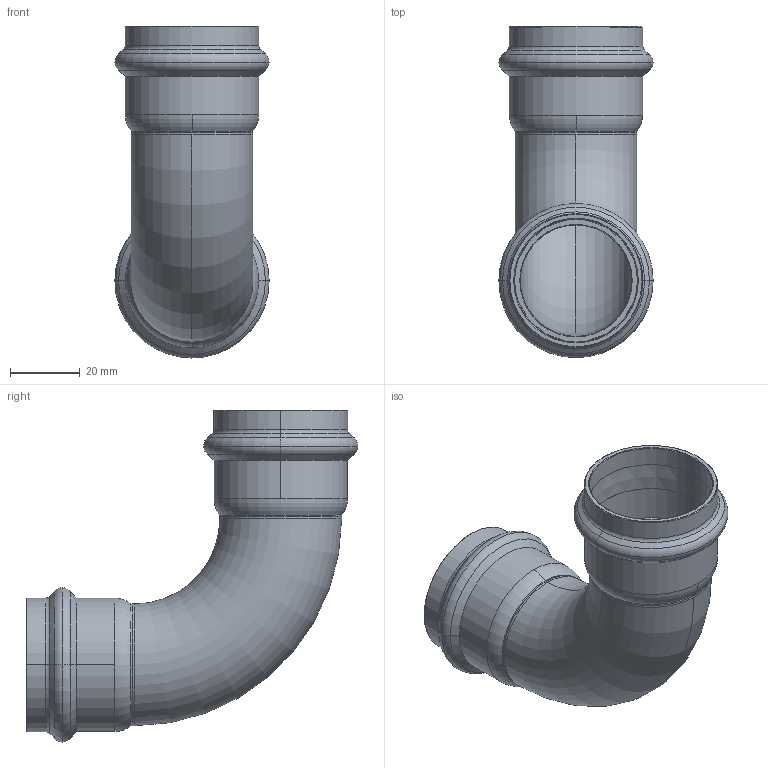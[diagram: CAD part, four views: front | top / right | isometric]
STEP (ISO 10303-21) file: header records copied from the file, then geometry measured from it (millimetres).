
FILE_DESCRIPTION(('CoCreate Modeling STEP Export'),'2;1');
FILE_NAME('8002VW35.stp','2013-01-29T13:46:11',(''),(''),'CoCreate Modeling STEP processor for AP214 (Solid Model)','CoCreate Modeling 17.00A 17-Jun-2010 (C) Parametric Technology GmbH','');
FILE_SCHEMA(('AUTOMOTIVE_DESIGN { 1 0 10303 214 1 1 1 1 }'));
Length unit declared in the file: millimetre
Products named in the file (2): 8002VW35
Assembly tree (1 placements, depth 2):
  8002VW35
    8002VW35
Bounding box: 44.3 x 95.26 x 95.34 mm (x, y, z)
Volume: 25572.1 mm3; surface area: 30053.7 mm2
Topology: 1 solids, 1 shells, 91 faces, 201 edges, 117 vertices
Faces by surface type: torus 32, cylinder 28, cone 20, plane 7, extrusion 4
Entity records: 3124 total; most frequent: CARTESIAN_POINT 1390, ORIENTED_EDGE 402, DIRECTION 310, EDGE_CURVE 201, AXIS2_PLACEMENT_3D 127, VERTEX_POINT 117, EDGE_LOOP 98, FACE_OUTER_BOUND 91
